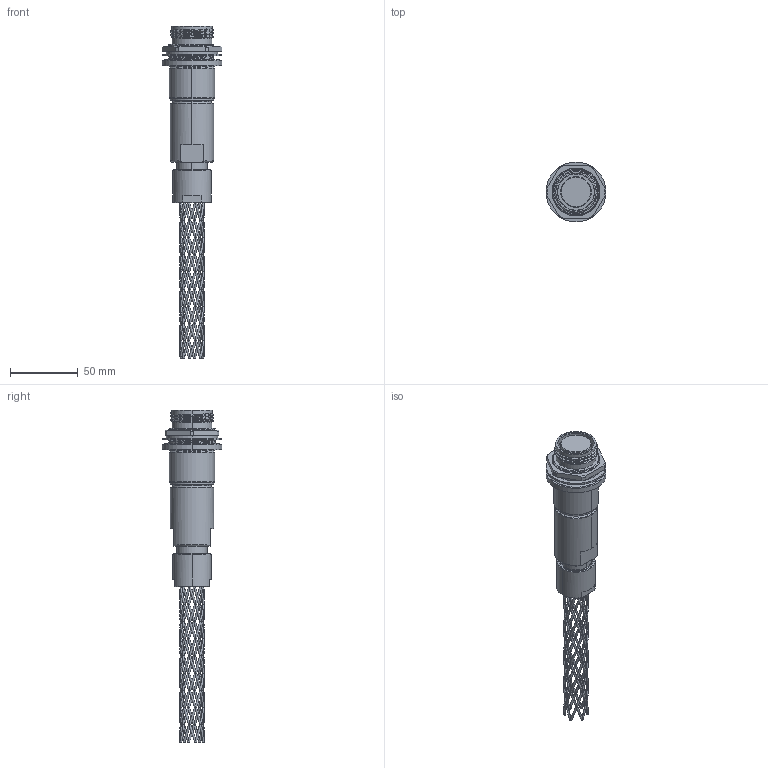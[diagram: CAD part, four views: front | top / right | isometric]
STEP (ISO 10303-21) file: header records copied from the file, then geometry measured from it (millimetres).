
FILE_DESCRIPTION (( 'STEP AP214' ), '1' );
FILE_NAME ('QLINK-RJTX-19XX-GXXX.STEP', '2025-09-30T22:20:41', ( '' ), ( '' ), 'SwSTEP 2.0', 'SolidWorks 2024', '' );
FILE_SCHEMA (( 'AUTOMOTIVE_DESIGN' ));
Products named in the file (1): QLINK-RJTX-19XX-GXXX
Bounding box: 44.2 x 44.2 x 244.77 mm (x, y, z)
Volume: 102137.8 mm3; surface area: 31864.1 mm2
Topology: 2 solids, 2 shells, 446 faces, 1261 edges, 722 vertices
Faces by surface type: bspline 251, cylinder 81, plane 49, cone 43, torus 22
Entity records: 116278 total; most frequent: CARTESIAN_POINT 107707, ORIENTED_EDGE 2518, EDGE_CURVE 1259, DIRECTION 1079, VERTEX_POINT 722, EDGE_LOOP 469, AXIS2_PLACEMENT_3D 459, FACE_OUTER_BOUND 446
